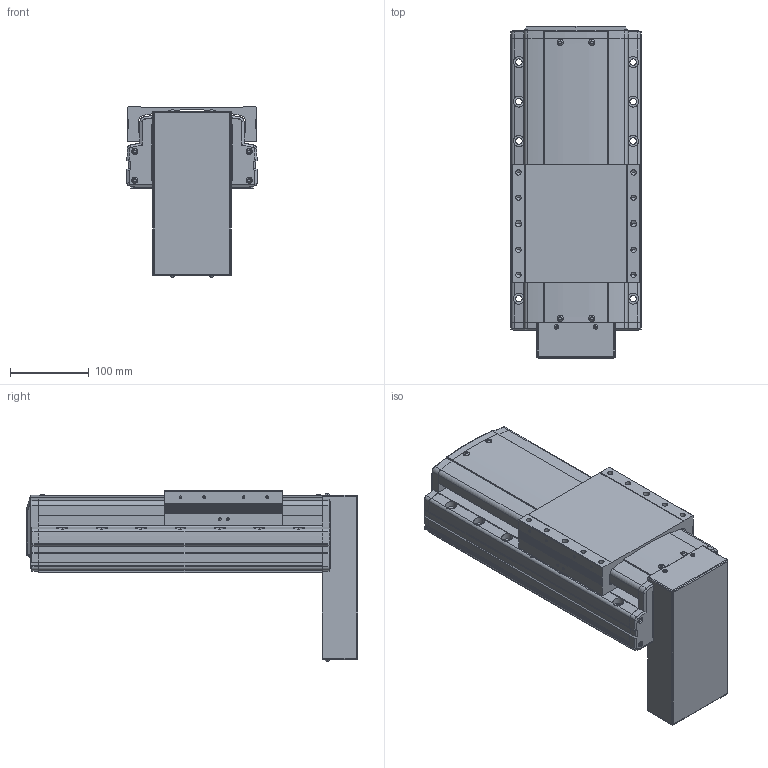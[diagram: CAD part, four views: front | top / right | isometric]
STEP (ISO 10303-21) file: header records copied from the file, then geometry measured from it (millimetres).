
FILE_DESCRIPTION(('STEP AP214'),'1');
FILE_NAME('Z:/Web/3D/PSA165/STP/PSA165-100 (3D)/PSA165ㅁㅁ-100PB.stp','2014-06-23T06:30:07',(' '),(' '),'Spatial InterOp 3D',' ',' ');
FILE_SCHEMA(('automotive_design'));
Length unit declared in the file: millimetre
Products named in the file (29): 스크루 : Round - M4.0 x 12.0; RRCV-PA160; BASE; 스크루 : Round - M4.0 x 10.0; RN15; Screw 20; SLIDE; FRCV; MTPL CV- PB; 스크루 : Round - M3.0 x 6.0; 1; 2
Bounding box: 165 x 420.8 x 215.96 mm (x, y, z)
Volume: 6357192.6 mm3; surface area: 532447.9 mm2
Topology: 29 solids, 29 shells, 2039 faces, 5444 edges, 3478 vertices
Faces by surface type: plane 1150, cylinder 610, cone 186, sphere 52, bspline 25, torus 16
Entity records: 82713 total; most frequent: CARTESIAN_POINT 14596, DIRECTION 10835, ORIENTED_EDGE 10652, EDGE_CURVE 5326, AXIS2_PLACEMENT_3D 3617, LINE 3601, VECTOR 3601, VERTEX_POINT 3478
